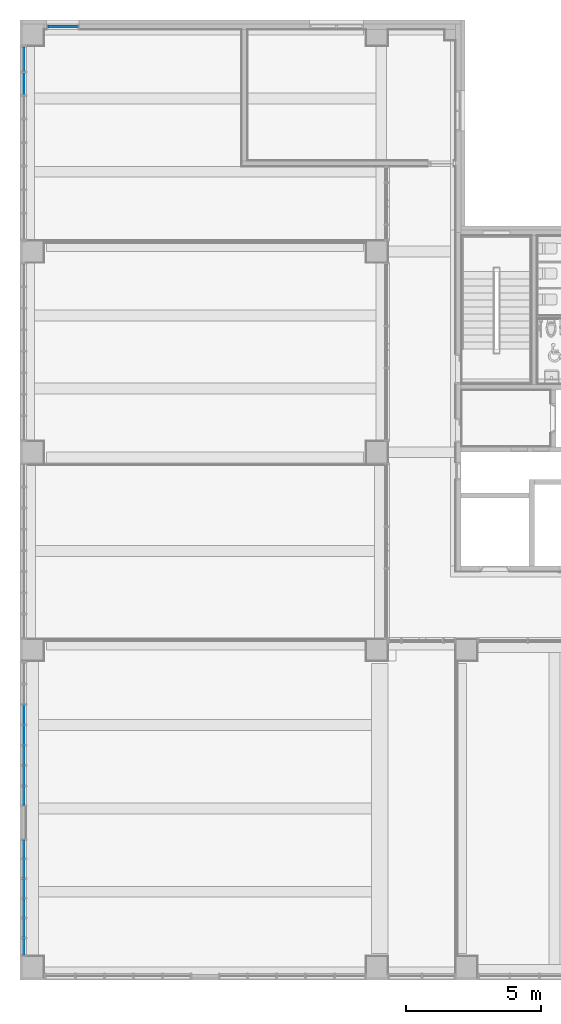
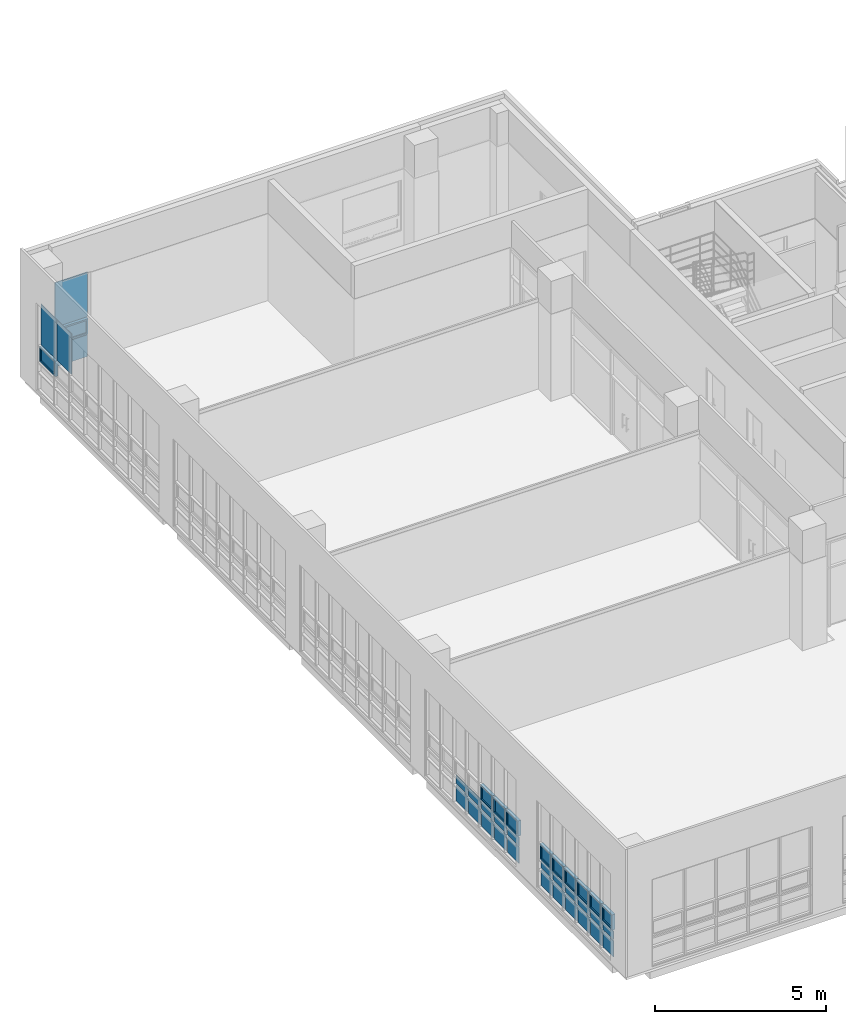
# One storey, part 38 of 74: 37 plates, 4 elements without a shape of their own.
"""IFC2X3 building model written with IfcOpenShell, lengths in millimetres."""

from ifc_helpers import new_model, entity, si_unit, converted_unit, derived_unit, direction, frame, origin, origin_2d_with_axis, place, context, subcontext, project, spatial, polyline, rectangle, outline, extrude, source, transform, mapped, material, material_list, type_object, type_shapes, element, aggregate, save


model = new_model("IFC2X3")

# Units and contexts
model_context = context("Model", 3, precision=0.01, world=origin(), true_north=direction((6.123031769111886e-17, 1.0)))
body_context = subcontext(model_context, "Body", "Model", "MODEL_VIEW")
ifc_project = project(units=[si_unit("LENGTHUNIT", "METRE", prefix="MILLI"), si_unit("AREAUNIT", "SQUARE_METRE"), si_unit("VOLUMEUNIT", "CUBIC_METRE"), converted_unit("PLANEANGLEUNIT", "DEGREE", entity("IfcRatioMeasure", 0.017453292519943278), si_unit("PLANEANGLEUNIT", "RADIAN"), dimensions=[0, 0, 0, 0, 0, 0, 0]), si_unit("MASSUNIT", "GRAM", prefix="KILO"), derived_unit("MASSDENSITYUNIT", [(si_unit("MASSUNIT", "GRAM", prefix="KILO"), 1), (si_unit("LENGTHUNIT", "METRE"), -3)]), derived_unit("MOMENTOFINERTIAUNIT", [(si_unit("LENGTHUNIT", "METRE"), 4)]), si_unit("TIMEUNIT", "SECOND"), si_unit("FREQUENCYUNIT", "HERTZ"), si_unit("THERMODYNAMICTEMPERATUREUNIT", "DEGREE_CELSIUS"), derived_unit("THERMALTRANSMITTANCEUNIT", [(si_unit("MASSUNIT", "GRAM", prefix="KILO"), 1), (si_unit("THERMODYNAMICTEMPERATUREUNIT", "KELVIN"), -1), (si_unit("TIMEUNIT", "SECOND"), -3)]), derived_unit("VOLUMETRICFLOWRATEUNIT", [(si_unit("LENGTHUNIT", "METRE"), 3), (si_unit("TIMEUNIT", "SECOND"), -1)]), derived_unit("MASSFLOWRATEUNIT", [(si_unit("MASSUNIT", "GRAM", prefix="KILO"), 1), (si_unit("TIMEUNIT", "SECOND"), -1)]), derived_unit("ROTATIONALFREQUENCYUNIT", [(si_unit("TIMEUNIT", "SECOND"), -1)]), si_unit("ELECTRICCURRENTUNIT", "AMPERE"), si_unit("ELECTRICVOLTAGEUNIT", "VOLT"), si_unit("POWERUNIT", "WATT"), si_unit("FORCEUNIT", "NEWTON", prefix="KILO"), si_unit("ILLUMINANCEUNIT", "LUX"), si_unit("LUMINOUSFLUXUNIT", "LUMEN"), si_unit("LUMINOUSINTENSITYUNIT", "CANDELA"), derived_unit("USERDEFINED", [(si_unit("MASSUNIT", "GRAM", prefix="KILO"), -1), (si_unit("LENGTHUNIT", "METRE"), -2), (si_unit("TIMEUNIT", "SECOND"), 3), (si_unit("LUMINOUSFLUXUNIT", "LUMEN"), 1)]), derived_unit("SOUNDPOWERUNIT", [(si_unit("MASSUNIT", "GRAM", prefix="KILO"), 1), (si_unit("LENGTHUNIT", "METRE"), 2), (si_unit("TIMEUNIT", "SECOND"), -3)]), derived_unit("SOUNDPRESSUREUNIT", [(si_unit("MASSUNIT", "GRAM", prefix="KILO"), 1), (si_unit("LENGTHUNIT", "METRE"), -1), (si_unit("TIMEUNIT", "SECOND"), -2)]), derived_unit("LINEARVELOCITYUNIT", [(si_unit("LENGTHUNIT", "METRE"), 1), (si_unit("TIMEUNIT", "SECOND"), -1)]), si_unit("PRESSUREUNIT", "PASCAL"), derived_unit("USERDEFINED", [(si_unit("LENGTHUNIT", "METRE"), -2), (si_unit("MASSUNIT", "GRAM", prefix="KILO"), 1), (si_unit("TIMEUNIT", "SECOND"), -2)]), derived_unit("LINEARFORCEUNIT", [(si_unit("MASSUNIT", "GRAM", prefix="KILO"), 1), (si_unit("LENGTHUNIT", "METRE"), 1), (si_unit("TIMEUNIT", "SECOND"), -2), (si_unit("LENGTHUNIT", "METRE"), -1)]), derived_unit("PLANARFORCEUNIT", [(si_unit("MASSUNIT", "GRAM", prefix="KILO"), 1), (si_unit("LENGTHUNIT", "METRE"), 1), (si_unit("TIMEUNIT", "SECOND"), -2), (si_unit("LENGTHUNIT", "METRE"), -2)])], contexts=[model_context])

# Site, building, storey
site_placement = place(None, frame((-14167.972527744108, -657.2125860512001, 0.0)))
site = spatial("IfcSite", under=ifc_project, at=site_placement, Name="Default", CompositionType="ELEMENT")
building_placement = place(site_placement, origin())
building = spatial("IfcBuilding", under=site, at=building_placement, Name="Sample Building", CompositionType="ELEMENT")
storey_placement = place(building_placement, frame((0.0, 0.0, 4800.0)))
storey = spatial("IfcBuildingStorey", under=building, at=storey_placement, Name="지상 2층", CompositionType="ELEMENT", Elevation=4800.000000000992)

# Curtain wall, plates
curtain_wall_type = type_object("IfcCurtainWallType", Name="커튼월:CW112-스테인리스 스틸 커튼월", PredefinedType="NOTDEFINED")
curtain_wall_1_placement = place(storey_placement, frame((0.0, 0.0, -4800.0)))
curtain_wall_1 = element("IfcCurtainWall", 1, at=curtain_wall_1_placement, inside=storey, type_object=curtain_wall_type, Name="커튼월:CW112-스테인리스 스틸 커튼월", ObjectType="커튼월:CW112-스테인리스 스틸 커튼월")
ifc_material_1 = material(Name="KBIMS-로이유리(코팅)")
plate_type_1 = type_object("IfcPlateType", Name="CW300-THK24.Low-e coating glass:CW300-THK24.Low-e coating glass", PredefinedType="CURTAIN_PANEL", material=ifc_material_1)
shared_shape_1 = source(origin(), body_context, "Body", "SweptSolid", [
    extrude(rectangle(XDim=24.000000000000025, YDim=1100.0000000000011, at=origin_2d_with_axis()), frame((0.0, 0.0, 0.0), z_axis=(0.0, 0.0, 1.0), x_axis=(0.0, 1.0, 0.0)), (0.0, 0.0, 1.0), 774.9999999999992),
])
type_shapes(plate_type_1, [shared_shape_1])
plate_1_placement = place(curtain_wall_1_placement, frame((15567.998485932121, 35657.21229514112, 4930.0)))
plate_1 = element("IfcPlate", 2, at=plate_1_placement, type_object=plate_type_1, material=ifc_material_1, Name="CW300-THK24.Low-e coating glass:CW300-THK24.Low-e coating glass", ObjectType="CW300-THK24.Low-e coating glass:CW300-THK24.Low-e coating glass", context=body_context, shape_type="MappedRepresentation", body=[
    mapped(shared_shape_1, transform((0.0, 0.0, 0.0), scale=1.0)),
])
ifc_material_2 = material(Name="KBIMS-유리")
ifc_material_3 = material(Name="KBIMS-알루미늄")
ifc_material_list_1 = material_list([ifc_material_2, ifc_material_3])
ifc_material_list_2 = material_list([ifc_material_2, ifc_material_3])
plate_type_2 = type_object("IfcPlateType", Name="CW410-프로젝트 창:CW410-프로젝트 창 (하부개폐)", PredefinedType="CURTAIN_PANEL", material=ifc_material_list_2)
shared_shape_2 = source(origin(), body_context, "Body", "SweptSolid", [
    extrude(rectangle(XDim=23.999999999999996, YDim=1000.0000000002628, at=origin_2d_with_axis()), frame((0.0, 0.04999999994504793, 50.0), z_axis=(0.0, 0.0, 1.0), x_axis=(0.0, 1.0, 0.0)), (0.0, 0.0, 1.0), 450.0000000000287),
    extrude(outline(polyline([(-550.0, -275.0), (550.0, -275.0), (550.0, 275.0), (-550.0, 275.0), (-550.0, -275.0)]), holes=[polyline([(-500.0, -225.0), (-500.0, 225.0), (500.0, 225.0), (500.0, -225.0), (-500.0, -225.0)])]), frame((0.0, -49.95000000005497, 275.0), z_axis=(0.0, 1.0, 0.0), x_axis=(1.0, 0.0, 0.0)), (0.0, 0.0, 1.0), 99.99999999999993),
])
type_shapes(plate_type_2, [shared_shape_2])
plate_2_placement = place(curtain_wall_1_placement, frame((15567.998485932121, 35657.21229514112, 5755.0)))
plate_2 = element("IfcPlate", 3, at=plate_2_placement, type_object=plate_type_2, material=ifc_material_list_1, Name="CW410-프로젝트 창:CW410-프로젝트 창 (하부개폐)", ObjectType="CW410-프로젝트 창:CW410-프로젝트 창 (하부개폐)", context=body_context, shape_type="MappedRepresentation", body=[
    mapped(shared_shape_2, transform((0.0, 0.0, 0.0), scale=1.0)),
])
plate_type_3 = type_object("IfcPlateType", Name="CW300-THK24.Low-e coating glass:CW300-THK24.Low-e coating glass", PredefinedType="CURTAIN_PANEL", material=ifc_material_1)
shared_shape_3 = source(origin(), body_context, "Body", "SweptSolid", [
    extrude(rectangle(XDim=24.000000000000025, YDim=1100.0000000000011, at=origin_2d_with_axis()), frame((0.0, 0.0, 0.0), z_axis=(0.0, 0.0, 1.0), x_axis=(0.0, 1.0, 0.0)), (0.0, 0.0, 1.0), 1595.0000000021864),
])
type_shapes(plate_type_3, [shared_shape_3])
plate_3_placement = place(curtain_wall_1_placement, frame((15567.998485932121, 35657.21229514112, 6355.0)))
plate_3 = element("IfcPlate", 4, at=plate_3_placement, type_object=plate_type_3, material=ifc_material_1, Name="CW300-THK24.Low-e coating glass:CW300-THK24.Low-e coating glass", ObjectType="CW300-THK24.Low-e coating glass:CW300-THK24.Low-e coating glass", context=body_context, shape_type="MappedRepresentation", body=[
    mapped(shared_shape_3, transform((0.0, 0.0, 0.0), scale=1.0)),
])
aggregate(curtain_wall_1, [plate_1, plate_2, plate_3])

curtain_wall_2_placement = place(storey_placement, frame((0.0, 0.0, -4800.0)))
curtain_wall_2 = element("IfcCurtainWall", 5, at=curtain_wall_2_placement, inside=storey, type_object=curtain_wall_type, Name="커튼월:CW112-스테인리스 스틸 커튼월", ObjectType="커튼월:CW112-스테인리스 스틸 커튼월")
ifc_material_list_3 = material_list([ifc_material_2, ifc_material_3])
ifc_material_list_4 = material_list([ifc_material_2, ifc_material_3])
plate_type_4 = type_object("IfcPlateType", Name="CW410-프로젝트 창:CW410-프로젝트 창 (하부개폐)", PredefinedType="CURTAIN_PANEL", material=ifc_material_list_4)
shared_shape_4 = source(origin(), body_context, "Body", "SweptSolid", [
    extrude(rectangle(XDim=803.7499999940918, YDim=23.999999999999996, at=origin_2d_with_axis()), frame((0.0, -0.04999999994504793, 50.0), z_axis=(0.0, 0.0, 1.0), x_axis=(-1.0, 0.0, 0.0)), (0.0, 0.0, 1.0), 450.0000000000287),
    extrude(outline(polyline([(-451.8749999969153, -275.0), (451.8749999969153, -275.0), (451.8749999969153, 275.0), (-451.8749999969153, 275.0), (-451.8749999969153, -275.0)]), holes=[polyline([(-401.874999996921, -225.0), (-401.8749999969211, 225.0), (401.87499999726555, 225.0), (401.8749999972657, -225.0), (-401.874999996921, -225.0)])]), frame((0.0, -50.04999999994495, 275.0), z_axis=(0.0, 1.0, 0.0), x_axis=(1.0, 0.0, 0.0)), (0.0, 0.0, 1.0), 99.99999999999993),
])
type_shapes(plate_type_4, [shared_shape_4])
plate_4_placement = place(curtain_wall_2_placement, frame((14130.455105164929, 34465.33727524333, 5905.0), z_axis=(0.0, 0.0, 1.0), x_axis=(0.0, -1.0, 0.0)))
plate_4 = element("IfcPlate", 6, at=plate_4_placement, type_object=plate_type_4, material=ifc_material_list_3, Name="CW410-프로젝트 창:CW410-프로젝트 창 (하부개폐)", ObjectType="CW410-프로젝트 창:CW410-프로젝트 창 (하부개폐)", context=body_context, shape_type="MappedRepresentation", body=[
    mapped(shared_shape_4, transform((0.0, 0.0, 0.0), scale=1.0)),
])
plate_type_5 = type_object("IfcPlateType", Name="CW300-THK24.Low-e coating glass:CW300-THK24.Low-e coating glass", PredefinedType="CURTAIN_PANEL", material=ifc_material_1)
shared_shape_5 = source(origin(), body_context, "Body", "SweptSolid", [
    extrude(rectangle(XDim=24.000000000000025, YDim=903.7499999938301, at=origin_2d_with_axis()), frame((0.0, 0.0, 0.0), z_axis=(0.0, 0.0, 1.0), x_axis=(0.0, 1.0, 0.0)), (0.0, 0.0, 1.0), 1445.0000000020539),
])
type_shapes(plate_type_5, [shared_shape_5])
plate_5_placement = place(curtain_wall_2_placement, frame((14130.455105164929, 34465.33727524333, 6505.0), z_axis=(0.0, 0.0, 1.0), x_axis=(0.0, -1.0, 0.0)))
plate_5 = element("IfcPlate", 7, at=plate_5_placement, type_object=plate_type_5, material=ifc_material_1, Name="CW300-THK24.Low-e coating glass:CW300-THK24.Low-e coating glass", ObjectType="CW300-THK24.Low-e coating glass:CW300-THK24.Low-e coating glass", context=body_context, shape_type="MappedRepresentation", body=[
    mapped(shared_shape_5, transform((0.0, 0.0, 0.0), scale=1.0)),
])
plate_type_6 = type_object("IfcPlateType", Name="CW300-THK24.Low-e coating glass:CW300-THK24.Low-e coating glass", PredefinedType="CURTAIN_PANEL", material=ifc_material_1)
shared_shape_6 = source(origin(), body_context, "Body", "SweptSolid", [
    extrude(rectangle(XDim=24.000000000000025, YDim=818.7500000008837, at=origin_2d_with_axis()), frame((0.0, 0.0, 0.0), z_axis=(0.0, 0.0, 1.0), x_axis=(0.0, 1.0, 0.0)), (0.0, 0.0, 1.0), 1445.0000000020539),
])
type_shapes(plate_type_6, [shared_shape_6])
plate_6_placement = place(curtain_wall_2_placement, frame((14130.455105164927, 33554.08727524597, 6505.0), z_axis=(0.0, 0.0, 1.0), x_axis=(0.0, -1.0, 0.0)))
plate_6 = element("IfcPlate", 8, at=plate_6_placement, type_object=plate_type_6, material=ifc_material_1, Name="CW300-THK24.Low-e coating glass:CW300-THK24.Low-e coating glass", ObjectType="CW300-THK24.Low-e coating glass:CW300-THK24.Low-e coating glass", context=body_context, shape_type="MappedRepresentation", body=[
    mapped(shared_shape_6, transform((0.0, 0.0, 0.0), scale=1.0)),
])
aggregate(curtain_wall_2, [plate_4, plate_5, plate_6])

curtain_wall_3_placement = place(storey_placement, frame((0.0, 0.0, -4800.0)))
curtain_wall_3 = element("IfcCurtainWall", 9, at=curtain_wall_3_placement, inside=storey, type_object=curtain_wall_type, Name="커튼월:CW112-스테인리스 스틸 커튼월", ObjectType="커튼월:CW112-스테인리스 스틸 커튼월")
plate_type_7 = type_object("IfcPlateType", Name="CW300-THK24.Low-e coating glass:CW300-THK24.Low-e coating glass", PredefinedType="CURTAIN_PANEL", material=ifc_material_1)
shared_shape_7 = source(origin(), body_context, "Body", "SweptSolid", [
    extrude(rectangle(XDim=703.5714285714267, YDim=24.000000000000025, at=origin_2d_with_axis()), frame((0.0, 0.0, 0.0), z_axis=(0.0, 0.0, 1.0), x_axis=(-1.0, 0.0, 0.0)), (0.0, 0.0, 1.0), 575.0000000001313),
])
type_shapes(plate_type_7, [shared_shape_7])
plate_7_placement = place(curtain_wall_3_placement, frame((14130.472570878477, 10273.283703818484, 4930.0), z_axis=(0.0, 0.0, 1.0), x_axis=(0.0, -1.0, 0.0)))
plate_7 = element("IfcPlate", 10, at=plate_7_placement, type_object=plate_type_7, material=ifc_material_1, Name="CW300-THK24.Low-e coating glass:CW300-THK24.Low-e coating glass", ObjectType="CW300-THK24.Low-e coating glass:CW300-THK24.Low-e coating glass", context=body_context, shape_type="MappedRepresentation", body=[
    mapped(shared_shape_7, transform((0.0, 0.0, 0.0), scale=1.0)),
])
plate_8_placement = place(curtain_wall_3_placement, frame((14130.472570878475, 9519.712275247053, 4930.0), z_axis=(0.0, 0.0, 1.0), x_axis=(0.0, -1.0, 0.0)))
plate_8 = element("IfcPlate", 11, at=plate_8_placement, type_object=plate_type_7, material=ifc_material_1, Name="CW300-THK24.Low-e coating glass:CW300-THK24.Low-e coating glass", ObjectType="CW300-THK24.Low-e coating glass:CW300-THK24.Low-e coating glass", context=body_context, shape_type="MappedRepresentation", body=[
    mapped(shared_shape_7, transform((0.0, 0.0, 0.0), scale=1.0)),
])
plate_9_placement = place(curtain_wall_3_placement, frame((14130.472570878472, 8766.140846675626, 4930.0), z_axis=(0.0, 0.0, 1.0), x_axis=(0.0, -1.0, 0.0)))
plate_9 = element("IfcPlate", 12, at=plate_9_placement, type_object=plate_type_7, material=ifc_material_1, Name="CW300-THK24.Low-e coating glass:CW300-THK24.Low-e coating glass", ObjectType="CW300-THK24.Low-e coating glass:CW300-THK24.Low-e coating glass", context=body_context, shape_type="MappedRepresentation", body=[
    mapped(shared_shape_7, transform((0.0, 0.0, 0.0), scale=1.0)),
])
plate_10_placement = place(curtain_wall_3_placement, frame((14130.472570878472, 8012.569418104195, 4930.0), z_axis=(0.0, 0.0, 1.0), x_axis=(0.0, -1.0, 0.0)))
plate_10 = element("IfcPlate", 13, at=plate_10_placement, type_object=plate_type_7, material=ifc_material_1, Name="CW300-THK24.Low-e coating glass:CW300-THK24.Low-e coating glass", ObjectType="CW300-THK24.Low-e coating glass:CW300-THK24.Low-e coating glass", context=body_context, shape_type="MappedRepresentation", body=[
    mapped(shared_shape_7, transform((0.0, 0.0, 0.0), scale=1.0)),
])
plate_type_8 = type_object("IfcPlateType", Name="CW300-THK24.Low-e coating glass:CW300-THK24.Low-e coating glass", PredefinedType="CURTAIN_PANEL", material=ifc_material_1)
shared_shape_8 = source(origin(), body_context, "Body", "SweptSolid", [
    extrude(rectangle(XDim=678.5714285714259, YDim=24.000000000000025, at=origin_2d_with_axis()), frame((0.0, 0.0, 0.0), z_axis=(0.0, 0.0, 1.0), x_axis=(-1.0, 0.0, 0.0)), (0.0, 0.0, 1.0), 575.0000000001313),
])
type_shapes(plate_type_8, [shared_shape_8])
plate_11_placement = place(curtain_wall_3_placement, frame((14130.47257087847, 7271.497989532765, 4930.0), z_axis=(0.0, 0.0, 1.0), x_axis=(0.0, -1.0, 0.0)))
plate_11 = element("IfcPlate", 14, at=plate_11_placement, type_object=plate_type_8, material=ifc_material_1, Name="CW300-THK24.Low-e coating glass:CW300-THK24.Low-e coating glass", ObjectType="CW300-THK24.Low-e coating glass:CW300-THK24.Low-e coating glass", context=body_context, shape_type="MappedRepresentation", body=[
    mapped(shared_shape_8, transform((0.0, 0.0, 0.0), scale=1.0)),
])
plate_type_9 = type_object("IfcPlateType", Name="CW300-THK24.Low-e coating glass:CW300-THK24.Low-e coating glass", PredefinedType="CURTAIN_PANEL", material=ifc_material_1)
shared_shape_9 = source(origin(), body_context, "Body", "SweptSolid", [
    extrude(rectangle(XDim=703.5714285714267, YDim=24.000000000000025, at=origin_2d_with_axis()), frame((0.0, 0.0, 0.0), z_axis=(0.0, 0.0, 1.0), x_axis=(-1.0, 0.0, 0.0)), (0.0, 0.0, 1.0), 300.0000000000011),
])
type_shapes(plate_type_9, [shared_shape_9])
plate_12_placement = place(curtain_wall_3_placement, frame((14130.472570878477, 10273.283703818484, 5555.0), z_axis=(0.0, 0.0, 1.0), x_axis=(0.0, -1.0, 0.0)))
plate_12 = element("IfcPlate", 15, at=plate_12_placement, type_object=plate_type_9, material=ifc_material_1, Name="CW300-THK24.Low-e coating glass:CW300-THK24.Low-e coating glass", ObjectType="CW300-THK24.Low-e coating glass:CW300-THK24.Low-e coating glass", context=body_context, shape_type="MappedRepresentation", body=[
    mapped(shared_shape_9, transform((0.0, 0.0, 0.0), scale=1.0)),
])
plate_13_placement = place(curtain_wall_3_placement, frame((14130.472570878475, 9519.712275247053, 5555.0), z_axis=(0.0, 0.0, 1.0), x_axis=(0.0, -1.0, 0.0)))
plate_13 = element("IfcPlate", 16, at=plate_13_placement, type_object=plate_type_9, material=ifc_material_1, Name="CW300-THK24.Low-e coating glass:CW300-THK24.Low-e coating glass", ObjectType="CW300-THK24.Low-e coating glass:CW300-THK24.Low-e coating glass", context=body_context, shape_type="MappedRepresentation", body=[
    mapped(shared_shape_9, transform((0.0, 0.0, 0.0), scale=1.0)),
])
plate_14_placement = place(curtain_wall_3_placement, frame((14130.472570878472, 8766.140846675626, 5555.0), z_axis=(0.0, 0.0, 1.0), x_axis=(0.0, -1.0, 0.0)))
plate_14 = element("IfcPlate", 17, at=plate_14_placement, type_object=plate_type_9, material=ifc_material_1, Name="CW300-THK24.Low-e coating glass:CW300-THK24.Low-e coating glass", ObjectType="CW300-THK24.Low-e coating glass:CW300-THK24.Low-e coating glass", context=body_context, shape_type="MappedRepresentation", body=[
    mapped(shared_shape_9, transform((0.0, 0.0, 0.0), scale=1.0)),
])
plate_15_placement = place(curtain_wall_3_placement, frame((14130.472570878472, 8012.569418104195, 5555.0), z_axis=(0.0, 0.0, 1.0), x_axis=(0.0, -1.0, 0.0)))
plate_15 = element("IfcPlate", 18, at=plate_15_placement, type_object=plate_type_9, material=ifc_material_1, Name="CW300-THK24.Low-e coating glass:CW300-THK24.Low-e coating glass", ObjectType="CW300-THK24.Low-e coating glass:CW300-THK24.Low-e coating glass", context=body_context, shape_type="MappedRepresentation", body=[
    mapped(shared_shape_9, transform((0.0, 0.0, 0.0), scale=1.0)),
])
plate_type_10 = type_object("IfcPlateType", Name="CW300-THK24.Low-e coating glass:CW300-THK24.Low-e coating glass", PredefinedType="CURTAIN_PANEL", material=ifc_material_1)
shared_shape_10 = source(origin(), body_context, "Body", "SweptSolid", [
    extrude(rectangle(XDim=678.5714285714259, YDim=24.000000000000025, at=origin_2d_with_axis()), frame((0.0, 0.0, 0.0), z_axis=(0.0, 0.0, 1.0), x_axis=(-1.0, 0.0, 0.0)), (0.0, 0.0, 1.0), 300.0000000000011),
])
type_shapes(plate_type_10, [shared_shape_10])
plate_16_placement = place(curtain_wall_3_placement, frame((14130.47257087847, 7271.497989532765, 5555.0), z_axis=(0.0, 0.0, 1.0), x_axis=(0.0, -1.0, 0.0)))
plate_16 = element("IfcPlate", 19, at=plate_16_placement, type_object=plate_type_10, material=ifc_material_1, Name="CW300-THK24.Low-e coating glass:CW300-THK24.Low-e coating glass", ObjectType="CW300-THK24.Low-e coating glass:CW300-THK24.Low-e coating glass", context=body_context, shape_type="MappedRepresentation", body=[
    mapped(shared_shape_10, transform((0.0, 0.0, 0.0), scale=1.0)),
])
ifc_material_list_5 = material_list([ifc_material_2, ifc_material_3])
ifc_material_list_6 = material_list([ifc_material_2, ifc_material_3])
plate_type_11 = type_object("IfcPlateType", Name="CW410-프로젝트 창:CW410-프로젝트 창 (하부개폐)", PredefinedType="CURTAIN_PANEL", material=ifc_material_list_6)
shared_shape_11 = source(origin(), body_context, "Body", "SweptSolid", [
    extrude(rectangle(XDim=603.5714285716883, YDim=23.999999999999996, at=origin_2d_with_axis()), frame((0.0, -0.04999999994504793, 50.0), z_axis=(0.0, 0.0, 1.0), x_axis=(-1.0, 0.0, 0.0)), (0.0, 0.0, 1.0), 450.0000000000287),
    extrude(outline(polyline([(-351.78571428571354, -275.0), (351.78571428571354, -275.0), (351.78571428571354, 275.0), (-351.78571428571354, 275.0), (-351.78571428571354, -275.0)]), holes=[polyline([(-301.7857142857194, -225.0), (-301.7857142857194, 225.0), (301.785714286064, 225.0), (301.785714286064, -225.0), (-301.7857142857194, -225.0)])]), frame((0.0, -50.04999999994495, 275.0), z_axis=(0.0, 1.0, 0.0), x_axis=(1.0, 0.0, 0.0)), (0.0, 0.0, 1.0), 99.99999999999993),
])
type_shapes(plate_type_11, [shared_shape_11])
plate_17_placement = place(curtain_wall_3_placement, frame((14130.472570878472, 8766.140846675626, 5905.0), z_axis=(0.0, 0.0, 1.0), x_axis=(0.0, -1.0, 0.0)))
plate_17 = element("IfcPlate", 20, at=plate_17_placement, type_object=plate_type_11, material=ifc_material_list_5, Name="CW410-프로젝트 창:CW410-프로젝트 창 (하부개폐)", ObjectType="CW410-프로젝트 창:CW410-프로젝트 창 (하부개폐)", context=body_context, shape_type="MappedRepresentation", body=[
    mapped(shared_shape_11, transform((0.0, 0.0, 0.0), scale=1.0)),
])
ifc_material_list_7 = material_list([ifc_material_2, ifc_material_3])
plate_18_placement = place(curtain_wall_3_placement, frame((14130.472570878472, 8012.569418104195, 5905.0), z_axis=(0.0, 0.0, 1.0), x_axis=(0.0, -1.0, 0.0)))
plate_18 = element("IfcPlate", 21, at=plate_18_placement, type_object=plate_type_11, material=ifc_material_list_7, Name="CW410-프로젝트 창:CW410-프로젝트 창 (하부개폐)", ObjectType="CW410-프로젝트 창:CW410-프로젝트 창 (하부개폐)", context=body_context, shape_type="MappedRepresentation", body=[
    mapped(shared_shape_11, transform((0.0, 0.0, 0.0), scale=1.0)),
])
ifc_material_list_8 = material_list([ifc_material_2, ifc_material_3])
ifc_material_list_9 = material_list([ifc_material_2, ifc_material_3])
plate_type_12 = type_object("IfcPlateType", Name="CW410-프로젝트 창:CW410-프로젝트 창 (하부개폐)", PredefinedType="CURTAIN_PANEL", material=ifc_material_list_9)
shared_shape_12 = source(origin(), body_context, "Body", "SweptSolid", [
    extrude(rectangle(XDim=578.5714285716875, YDim=23.999999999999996, at=origin_2d_with_axis()), frame((0.0, -0.04999999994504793, 50.0), z_axis=(0.0, 0.0, 1.0), x_axis=(-1.0, 0.0, 0.0)), (0.0, 0.0, 1.0), 450.0000000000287),
    extrude(outline(polyline([(-339.28571428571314, -275.0), (339.28571428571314, -275.0), (339.28571428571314, 275.0), (-339.28571428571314, 275.0), (-339.28571428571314, -275.0)]), holes=[polyline([(-289.285714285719, -225.0), (-289.285714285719, 225.0), (289.2857142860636, 225.0), (289.2857142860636, -225.0), (-289.285714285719, -225.0)])]), frame((0.0, -50.04999999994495, 275.0), z_axis=(0.0, 1.0, 0.0), x_axis=(1.0, 0.0, 0.0)), (0.0, 0.0, 1.0), 99.99999999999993),
])
type_shapes(plate_type_12, [shared_shape_12])
plate_19_placement = place(curtain_wall_3_placement, frame((14130.47257087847, 7271.497989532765, 5905.0), z_axis=(0.0, 0.0, 1.0), x_axis=(0.0, -1.0, 0.0)))
plate_19 = element("IfcPlate", 22, at=plate_19_placement, type_object=plate_type_12, material=ifc_material_list_8, Name="CW410-프로젝트 창:CW410-프로젝트 창 (하부개폐)", ObjectType="CW410-프로젝트 창:CW410-프로젝트 창 (하부개폐)", context=body_context, shape_type="MappedRepresentation", body=[
    mapped(shared_shape_12, transform((0.0, 0.0, 0.0), scale=1.0)),
])
aggregate(curtain_wall_3, [plate_7, plate_8, plate_9, plate_10, plate_11, plate_12, plate_13, plate_14, plate_15, plate_16, plate_17, plate_18, plate_19])

curtain_wall_4_placement = place(storey_placement, frame((0.0, 0.0, -4800.0)))
curtain_wall_4 = element("IfcCurtainWall", 23, at=curtain_wall_4_placement, inside=storey, type_object=curtain_wall_type, Name="커튼월:CW112-스테인리스 스틸 커튼월", ObjectType="커튼월:CW112-스테인리스 스틸 커튼월")
plate_type_13 = type_object("IfcPlateType", Name="CW300-THK24.Low-e coating glass:CW300-THK24.Low-e coating glass", PredefinedType="CURTAIN_PANEL", material=ifc_material_1)
shared_shape_13 = source(origin(), body_context, "Body", "SweptSolid", [
    extrude(rectangle(XDim=24.000000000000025, YDim=654.1666666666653, at=origin_2d_with_axis()), frame((0.0, 0.0, 0.0), z_axis=(0.0, 0.0, 1.0), x_axis=(0.0, 1.0, 0.0)), (0.0, 0.0, 1.0), 575.0000000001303),
])
type_shapes(plate_type_13, [shared_shape_13])
plate_20_placement = place(curtain_wall_4_placement, frame((14129.839654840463, 5302.39133094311, 4930.0), z_axis=(0.0, 0.0, 1.0), x_axis=(0.0, -1.0, 0.0)))
plate_20 = element("IfcPlate", 24, at=plate_20_placement, type_object=plate_type_13, material=ifc_material_1, Name="CW300-THK24.Low-e coating glass:CW300-THK24.Low-e coating glass", ObjectType="CW300-THK24.Low-e coating glass:CW300-THK24.Low-e coating glass", context=body_context, shape_type="MappedRepresentation", body=[
    mapped(shared_shape_13, transform((0.0, 0.0, 0.0), scale=1.0)),
])
plate_type_14 = type_object("IfcPlateType", Name="CW300-THK24.Low-e coating glass:CW300-THK24.Low-e coating glass", PredefinedType="CURTAIN_PANEL", material=ifc_material_1)
shared_shape_14 = source(origin(), body_context, "Body", "SweptSolid", [
    extrude(rectangle(XDim=24.000000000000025, YDim=679.1666666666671, at=origin_2d_with_axis()), frame((0.0, 0.0, 0.0), z_axis=(0.0, 0.0, 1.0), x_axis=(0.0, 1.0, 0.0)), (0.0, 0.0, 1.0), 575.0000000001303),
])
type_shapes(plate_type_14, [shared_shape_14])
plate_21_placement = place(curtain_wall_4_placement, frame((14129.839654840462, 4585.724664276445, 4930.0), z_axis=(0.0, 0.0, 1.0), x_axis=(0.0, -1.0, 0.0)))
plate_21 = element("IfcPlate", 25, at=plate_21_placement, type_object=plate_type_14, material=ifc_material_1, Name="CW300-THK24.Low-e coating glass:CW300-THK24.Low-e coating glass", ObjectType="CW300-THK24.Low-e coating glass:CW300-THK24.Low-e coating glass", context=body_context, shape_type="MappedRepresentation", body=[
    mapped(shared_shape_14, transform((0.0, 0.0, 0.0), scale=1.0)),
])
plate_22_placement = place(curtain_wall_4_placement, frame((14129.839654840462, 3856.5579976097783, 4930.0), z_axis=(0.0, 0.0, 1.0), x_axis=(0.0, -1.0, 0.0)))
plate_22 = element("IfcPlate", 26, at=plate_22_placement, type_object=plate_type_14, material=ifc_material_1, Name="CW300-THK24.Low-e coating glass:CW300-THK24.Low-e coating glass", ObjectType="CW300-THK24.Low-e coating glass:CW300-THK24.Low-e coating glass", context=body_context, shape_type="MappedRepresentation", body=[
    mapped(shared_shape_14, transform((0.0, 0.0, 0.0), scale=1.0)),
])
plate_23_placement = place(curtain_wall_4_placement, frame((14129.83965484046, 3127.391330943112, 4930.0), z_axis=(0.0, 0.0, 1.0), x_axis=(0.0, -1.0, 0.0)))
plate_23 = element("IfcPlate", 27, at=plate_23_placement, type_object=plate_type_14, material=ifc_material_1, Name="CW300-THK24.Low-e coating glass:CW300-THK24.Low-e coating glass", ObjectType="CW300-THK24.Low-e coating glass:CW300-THK24.Low-e coating glass", context=body_context, shape_type="MappedRepresentation", body=[
    mapped(shared_shape_14, transform((0.0, 0.0, 0.0), scale=1.0)),
])
plate_24_placement = place(curtain_wall_4_placement, frame((14129.83965484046, 2398.224664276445, 4930.0), z_axis=(0.0, 0.0, 1.0), x_axis=(0.0, -1.0, 0.0)))
plate_24 = element("IfcPlate", 28, at=plate_24_placement, type_object=plate_type_14, material=ifc_material_1, Name="CW300-THK24.Low-e coating glass:CW300-THK24.Low-e coating glass", ObjectType="CW300-THK24.Low-e coating glass:CW300-THK24.Low-e coating glass", context=body_context, shape_type="MappedRepresentation", body=[
    mapped(shared_shape_14, transform((0.0, 0.0, 0.0), scale=1.0)),
])
plate_type_15 = type_object("IfcPlateType", Name="CW300-THK24.Low-e coating glass:CW300-THK24.Low-e coating glass", PredefinedType="CURTAIN_PANEL", material=ifc_material_1)
shared_shape_15 = source(origin(), body_context, "Body", "SweptSolid", [
    extrude(rectangle(XDim=24.000000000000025, YDim=601.913033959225, at=origin_2d_with_axis()), frame((0.0, 0.0, 0.0), z_axis=(0.0, 0.0, 1.0), x_axis=(0.0, 1.0, 0.0)), (0.0, 0.0, 1.0), 575.0000000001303),
])
type_shapes(plate_type_15, [shared_shape_15])
plate_25_placement = place(curtain_wall_4_placement, frame((14129.839654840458, 1707.6848139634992, 4930.0), z_axis=(0.0, 0.0, 1.0), x_axis=(0.0, -1.0, 0.0)))
plate_25 = element("IfcPlate", 29, at=plate_25_placement, type_object=plate_type_15, material=ifc_material_1, Name="CW300-THK24.Low-e coating glass:CW300-THK24.Low-e coating glass", ObjectType="CW300-THK24.Low-e coating glass:CW300-THK24.Low-e coating glass", context=body_context, shape_type="MappedRepresentation", body=[
    mapped(shared_shape_15, transform((0.0, 0.0, 0.0), scale=1.0)),
])
plate_type_16 = type_object("IfcPlateType", Name="CW300-THK24.Low-e coating glass:CW300-THK24.Low-e coating glass", PredefinedType="CURTAIN_PANEL", material=ifc_material_1)
shared_shape_16 = source(origin(), body_context, "Body", "SweptSolid", [
    extrude(rectangle(XDim=24.000000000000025, YDim=654.1666666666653, at=origin_2d_with_axis()), frame((0.0, 0.0, 0.0), z_axis=(0.0, 0.0, 1.0), x_axis=(0.0, 1.0, 0.0)), (0.0, 0.0, 1.0), 300.0000000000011),
])
type_shapes(plate_type_16, [shared_shape_16])
plate_26_placement = place(curtain_wall_4_placement, frame((14129.839654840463, 5302.39133094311, 5555.0), z_axis=(0.0, 0.0, 1.0), x_axis=(0.0, -1.0, 0.0)))
plate_26 = element("IfcPlate", 30, at=plate_26_placement, type_object=plate_type_16, material=ifc_material_1, Name="CW300-THK24.Low-e coating glass:CW300-THK24.Low-e coating glass", ObjectType="CW300-THK24.Low-e coating glass:CW300-THK24.Low-e coating glass", context=body_context, shape_type="MappedRepresentation", body=[
    mapped(shared_shape_16, transform((0.0, 0.0, 0.0), scale=1.0)),
])
plate_type_17 = type_object("IfcPlateType", Name="CW300-THK24.Low-e coating glass:CW300-THK24.Low-e coating glass", PredefinedType="CURTAIN_PANEL", material=ifc_material_1)
shared_shape_17 = source(origin(), body_context, "Body", "SweptSolid", [
    extrude(rectangle(XDim=24.000000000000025, YDim=679.1666666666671, at=origin_2d_with_axis()), frame((0.0, 0.0, 0.0), z_axis=(0.0, 0.0, 1.0), x_axis=(0.0, 1.0, 0.0)), (0.0, 0.0, 1.0), 300.0000000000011),
])
type_shapes(plate_type_17, [shared_shape_17])
plate_27_placement = place(curtain_wall_4_placement, frame((14129.839654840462, 4585.724664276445, 5555.0), z_axis=(0.0, 0.0, 1.0), x_axis=(0.0, -1.0, 0.0)))
plate_27 = element("IfcPlate", 31, at=plate_27_placement, type_object=plate_type_17, material=ifc_material_1, Name="CW300-THK24.Low-e coating glass:CW300-THK24.Low-e coating glass", ObjectType="CW300-THK24.Low-e coating glass:CW300-THK24.Low-e coating glass", context=body_context, shape_type="MappedRepresentation", body=[
    mapped(shared_shape_17, transform((0.0, 0.0, 0.0), scale=1.0)),
])
plate_28_placement = place(curtain_wall_4_placement, frame((14129.839654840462, 3856.5579976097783, 5555.0), z_axis=(0.0, 0.0, 1.0), x_axis=(0.0, -1.0, 0.0)))
plate_28 = element("IfcPlate", 32, at=plate_28_placement, type_object=plate_type_17, material=ifc_material_1, Name="CW300-THK24.Low-e coating glass:CW300-THK24.Low-e coating glass", ObjectType="CW300-THK24.Low-e coating glass:CW300-THK24.Low-e coating glass", context=body_context, shape_type="MappedRepresentation", body=[
    mapped(shared_shape_17, transform((0.0, 0.0, 0.0), scale=1.0)),
])
plate_29_placement = place(curtain_wall_4_placement, frame((14129.83965484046, 3127.391330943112, 5555.0), z_axis=(0.0, 0.0, 1.0), x_axis=(0.0, -1.0, 0.0)))
plate_29 = element("IfcPlate", 33, at=plate_29_placement, type_object=plate_type_17, material=ifc_material_1, Name="CW300-THK24.Low-e coating glass:CW300-THK24.Low-e coating glass", ObjectType="CW300-THK24.Low-e coating glass:CW300-THK24.Low-e coating glass", context=body_context, shape_type="MappedRepresentation", body=[
    mapped(shared_shape_17, transform((0.0, 0.0, 0.0), scale=1.0)),
])
plate_30_placement = place(curtain_wall_4_placement, frame((14129.83965484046, 2398.224664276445, 5555.0), z_axis=(0.0, 0.0, 1.0), x_axis=(0.0, -1.0, 0.0)))
plate_30 = element("IfcPlate", 34, at=plate_30_placement, type_object=plate_type_17, material=ifc_material_1, Name="CW300-THK24.Low-e coating glass:CW300-THK24.Low-e coating glass", ObjectType="CW300-THK24.Low-e coating glass:CW300-THK24.Low-e coating glass", context=body_context, shape_type="MappedRepresentation", body=[
    mapped(shared_shape_17, transform((0.0, 0.0, 0.0), scale=1.0)),
])
plate_type_18 = type_object("IfcPlateType", Name="CW300-THK24.Low-e coating glass:CW300-THK24.Low-e coating glass", PredefinedType="CURTAIN_PANEL", material=ifc_material_1)
shared_shape_18 = source(origin(), body_context, "Body", "SweptSolid", [
    extrude(rectangle(XDim=24.000000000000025, YDim=601.9130339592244, at=origin_2d_with_axis()), frame((0.0, 0.0, 0.0), z_axis=(0.0, 0.0, 1.0), x_axis=(0.0, 1.0, 0.0)), (0.0, 0.0, 1.0), 300.0000000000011),
])
type_shapes(plate_type_18, [shared_shape_18])
plate_31_placement = place(curtain_wall_4_placement, frame((14129.839654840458, 1707.6848139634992, 5555.0), z_axis=(0.0, 0.0, 1.0), x_axis=(0.0, -1.0, 0.0)))
plate_31 = element("IfcPlate", 35, at=plate_31_placement, type_object=plate_type_18, material=ifc_material_1, Name="CW300-THK24.Low-e coating glass:CW300-THK24.Low-e coating glass", ObjectType="CW300-THK24.Low-e coating glass:CW300-THK24.Low-e coating glass", context=body_context, shape_type="MappedRepresentation", body=[
    mapped(shared_shape_18, transform((0.0, 0.0, 0.0), scale=1.0)),
])
ifc_material_list_10 = material_list([ifc_material_2, ifc_material_3])
ifc_material_list_11 = material_list([ifc_material_2, ifc_material_3])
plate_type_19 = type_object("IfcPlateType", Name="CW410-프로젝트 창:CW410-프로젝트 창 (하부개폐)", PredefinedType="CURTAIN_PANEL", material=ifc_material_list_11)
shared_shape_19 = source(origin(), body_context, "Body", "SweptSolid", [
    extrude(rectangle(XDim=554.1666666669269, YDim=23.999999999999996, at=origin_2d_with_axis()), frame((0.0, -0.04999999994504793, 50.0), z_axis=(0.0, 0.0, 1.0), x_axis=(-1.0, 0.0, 0.0)), (0.0, 0.0, 1.0), 450.0000000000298),
    extrude(outline(polyline([(-327.0833333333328, -275.0), (327.0833333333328, -275.0), (327.0833333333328, 275.0), (-327.0833333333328, 275.0), (-327.0833333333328, -275.0)]), holes=[polyline([(-277.08333333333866, -225.0), (-277.08333333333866, 225.0), (277.08333333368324, 225.0), (277.08333333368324, -225.0), (-277.08333333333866, -225.0)])]), frame((0.0, -50.04999999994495, 275.0), z_axis=(0.0, 1.0, 0.0), x_axis=(1.0, 0.0, 0.0)), (0.0, 0.0, 1.0), 99.99999999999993),
])
type_shapes(plate_type_19, [shared_shape_19])
plate_32_placement = place(curtain_wall_4_placement, frame((14129.839654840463, 5302.39133094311, 5905.0), z_axis=(0.0, 0.0, 1.0), x_axis=(0.0, -1.0, 0.0)))
plate_32 = element("IfcPlate", 36, at=plate_32_placement, type_object=plate_type_19, material=ifc_material_list_10, Name="CW410-프로젝트 창:CW410-프로젝트 창 (하부개폐)", ObjectType="CW410-프로젝트 창:CW410-프로젝트 창 (하부개폐)", context=body_context, shape_type="MappedRepresentation", body=[
    mapped(shared_shape_19, transform((0.0, 0.0, 0.0), scale=1.0)),
])
ifc_material_list_12 = material_list([ifc_material_2, ifc_material_3])
ifc_material_list_13 = material_list([ifc_material_2, ifc_material_3])
plate_type_20 = type_object("IfcPlateType", Name="CW410-프로젝트 창:CW410-프로젝트 창 (하부개폐)", PredefinedType="CURTAIN_PANEL", material=ifc_material_list_13)
shared_shape_20 = source(origin(), body_context, "Body", "SweptSolid", [
    extrude(rectangle(XDim=579.1666666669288, YDim=23.999999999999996, at=origin_2d_with_axis()), frame((0.0, -0.04999999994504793, 50.0), z_axis=(0.0, 0.0, 1.0), x_axis=(-1.0, 0.0, 0.0)), (0.0, 0.0, 1.0), 450.0000000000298),
    extrude(outline(polyline([(-339.58333333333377, -275.0), (339.58333333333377, -275.0), (339.58333333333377, 275.0), (-339.58333333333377, 275.0), (-339.58333333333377, -275.0)]), holes=[polyline([(-289.5833333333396, -225.0), (-289.58333333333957, 225.0), (289.5833333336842, 225.0), (289.5833333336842, -225.0), (-289.5833333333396, -225.0)])]), frame((0.0, -50.04999999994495, 275.0), z_axis=(0.0, 1.0, 0.0), x_axis=(1.0, 0.0, 0.0)), (0.0, 0.0, 1.0), 99.99999999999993),
])
type_shapes(plate_type_20, [shared_shape_20])
plate_33_placement = place(curtain_wall_4_placement, frame((14129.839654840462, 4585.724664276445, 5905.0), z_axis=(0.0, 0.0, 1.0), x_axis=(0.0, -1.0, 0.0)))
plate_33 = element("IfcPlate", 37, at=plate_33_placement, type_object=plate_type_20, material=ifc_material_list_12, Name="CW410-프로젝트 창:CW410-프로젝트 창 (하부개폐)", ObjectType="CW410-프로젝트 창:CW410-프로젝트 창 (하부개폐)", context=body_context, shape_type="MappedRepresentation", body=[
    mapped(shared_shape_20, transform((0.0, 0.0, 0.0), scale=1.0)),
])
ifc_material_list_14 = material_list([ifc_material_2, ifc_material_3])
plate_34_placement = place(curtain_wall_4_placement, frame((14129.839654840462, 3856.5579976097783, 5905.0), z_axis=(0.0, 0.0, 1.0), x_axis=(0.0, -1.0, 0.0)))
plate_34 = element("IfcPlate", 38, at=plate_34_placement, type_object=plate_type_20, material=ifc_material_list_14, Name="CW410-프로젝트 창:CW410-프로젝트 창 (하부개폐)", ObjectType="CW410-프로젝트 창:CW410-프로젝트 창 (하부개폐)", context=body_context, shape_type="MappedRepresentation", body=[
    mapped(shared_shape_20, transform((0.0, 0.0, 0.0), scale=1.0)),
])
ifc_material_list_15 = material_list([ifc_material_2, ifc_material_3])
plate_35_placement = place(curtain_wall_4_placement, frame((14129.83965484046, 3127.391330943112, 5905.0), z_axis=(0.0, 0.0, 1.0), x_axis=(0.0, -1.0, 0.0)))
plate_35 = element("IfcPlate", 39, at=plate_35_placement, type_object=plate_type_20, material=ifc_material_list_15, Name="CW410-프로젝트 창:CW410-프로젝트 창 (하부개폐)", ObjectType="CW410-프로젝트 창:CW410-프로젝트 창 (하부개폐)", context=body_context, shape_type="MappedRepresentation", body=[
    mapped(shared_shape_20, transform((0.0, 0.0, 0.0), scale=1.0)),
])
ifc_material_list_16 = material_list([ifc_material_2, ifc_material_3])
plate_36_placement = place(curtain_wall_4_placement, frame((14129.83965484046, 2398.224664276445, 5905.0), z_axis=(0.0, 0.0, 1.0), x_axis=(0.0, -1.0, 0.0)))
plate_36 = element("IfcPlate", 40, at=plate_36_placement, type_object=plate_type_20, material=ifc_material_list_16, Name="CW410-프로젝트 창:CW410-프로젝트 창 (하부개폐)", ObjectType="CW410-프로젝트 창:CW410-프로젝트 창 (하부개폐)", context=body_context, shape_type="MappedRepresentation", body=[
    mapped(shared_shape_20, transform((0.0, 0.0, 0.0), scale=1.0)),
])
ifc_material_list_17 = material_list([ifc_material_2, ifc_material_3])
ifc_material_list_18 = material_list([ifc_material_2, ifc_material_3])
plate_type_21 = type_object("IfcPlateType", Name="CW410-프로젝트 창:CW410-프로젝트 창 (하부개폐)", PredefinedType="CURTAIN_PANEL", material=ifc_material_list_18)
shared_shape_21 = source(origin(), body_context, "Body", "SweptSolid", [
    extrude(rectangle(XDim=501.9130339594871, YDim=23.999999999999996, at=origin_2d_with_axis()), frame((0.0, -0.04999999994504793, 50.0), z_axis=(0.0, 0.0, 1.0), x_axis=(-1.0, 0.0, 0.0)), (0.0, 0.0, 1.0), 450.0000000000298),
    extrude(outline(polyline([(-300.95651697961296, -275.0), (300.95651697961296, -275.0), (300.95651697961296, 275.0), (-300.95651697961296, 275.0), (-300.95651697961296, -275.0)]), holes=[polyline([(-250.9565169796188, -225.0), (-250.95651697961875, 225.0), (250.9565169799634, 225.0), (250.9565169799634, -225.0), (-250.9565169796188, -225.0)])]), frame((0.0, -50.04999999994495, 275.0), z_axis=(0.0, 1.0, 0.0), x_axis=(1.0, 0.0, 0.0)), (0.0, 0.0, 1.0), 99.99999999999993),
])
type_shapes(plate_type_21, [shared_shape_21])
plate_37_placement = place(curtain_wall_4_placement, frame((14129.839654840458, 1707.6848139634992, 5905.0), z_axis=(0.0, 0.0, 1.0), x_axis=(0.0, -1.0, 0.0)))
plate_37 = element("IfcPlate", 41, at=plate_37_placement, type_object=plate_type_21, material=ifc_material_list_17, Name="CW410-프로젝트 창:CW410-프로젝트 창 (하부개폐)", ObjectType="CW410-프로젝트 창:CW410-프로젝트 창 (하부개폐)", context=body_context, shape_type="MappedRepresentation", body=[
    mapped(shared_shape_21, transform((0.0, 0.0, 0.0), scale=1.0)),
])
aggregate(curtain_wall_4, [plate_20, plate_21, plate_22, plate_23, plate_24, plate_25, plate_26, plate_27, plate_28, plate_29, plate_30, plate_31, plate_32, plate_33, plate_34, plate_35, plate_36, plate_37])

save(model, "model.ifc")
